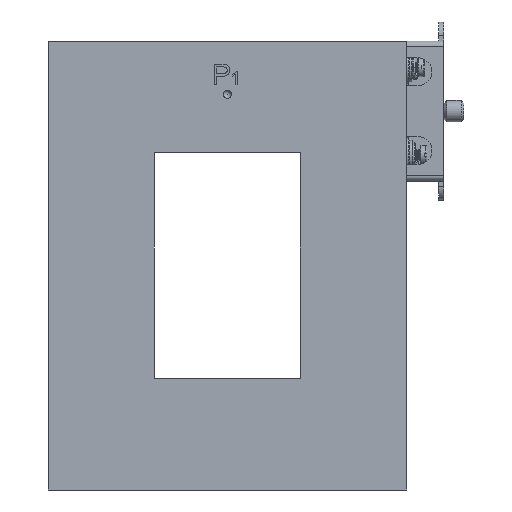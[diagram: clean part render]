
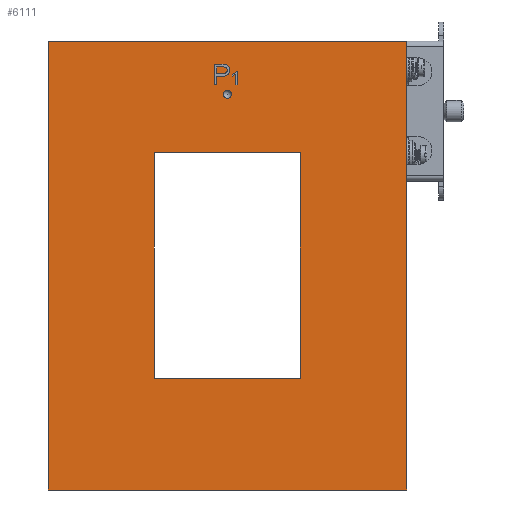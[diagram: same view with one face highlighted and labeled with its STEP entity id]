
A CAD part, left-side view. The second image highlights one B-rep face of the part: STEP entity #6111.
In plain terms, the highlighted planar face has unit normal (-1, 0, 0).
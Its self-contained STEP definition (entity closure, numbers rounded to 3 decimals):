
#91=FACE_BOUND('',#890,.T.);
#92=FACE_BOUND('',#891,.T.);
#211=PLANE('',#6783);
#541=FACE_OUTER_BOUND('',#889,.T.);
#889=EDGE_LOOP('',(#5255,#5256,#5257,#5258));
#890=EDGE_LOOP('',(#5259));
#891=EDGE_LOOP('',(#5260,#5261,#5262,#5263));
#1203=CIRCLE('',#6773,1.536);
#1721=LINE('',#21067,#2133);
#1724=LINE('',#21073,#2136);
#1727=LINE('',#21079,#2139);
#1730=LINE('',#21083,#2142);
#1733=LINE('',#21091,#2145);
#1737=LINE('',#21098,#2149);
#1740=LINE('',#21104,#2152);
#1742=LINE('',#21107,#2154);
#2133=VECTOR('',#8429,1.);
#2136=VECTOR('',#8434,1.);
#2139=VECTOR('',#8439,1.);
#2142=VECTOR('',#8444,1.);
#2145=VECTOR('',#8449,1.);
#2149=VECTOR('',#8455,1.);
#2152=VECTOR('',#8460,1.);
#2154=VECTOR('',#8464,1.);
#2698=VERTEX_POINT('',#21056);
#2702=VERTEX_POINT('',#21064);
#2703=VERTEX_POINT('',#21066);
#2705=VERTEX_POINT('',#21072);
#2707=VERTEX_POINT('',#21078);
#2710=VERTEX_POINT('',#21088);
#2711=VERTEX_POINT('',#21090);
#2713=VERTEX_POINT('',#21096);
#2715=VERTEX_POINT('',#21102);
#3542=EDGE_CURVE('',#2698,#2698,#1203,.T.);
#3546=EDGE_CURVE('',#2703,#2702,#1721,.T.);
#3549=EDGE_CURVE('',#2705,#2703,#1724,.T.);
#3552=EDGE_CURVE('',#2707,#2705,#1727,.T.);
#3555=EDGE_CURVE('',#2702,#2707,#1730,.T.);
#3558=EDGE_CURVE('',#2710,#2711,#1733,.T.);
#3562=EDGE_CURVE('',#2713,#2710,#1737,.T.);
#3565=EDGE_CURVE('',#2715,#2713,#1740,.T.);
#3567=EDGE_CURVE('',#2711,#2715,#1742,.T.);
#5255=ORIENTED_EDGE('',*,*,#3567,.F.);
#5256=ORIENTED_EDGE('',*,*,#3558,.F.);
#5257=ORIENTED_EDGE('',*,*,#3562,.F.);
#5258=ORIENTED_EDGE('',*,*,#3565,.F.);
#5259=ORIENTED_EDGE('',*,*,#3542,.T.);
#5260=ORIENTED_EDGE('',*,*,#3546,.T.);
#5261=ORIENTED_EDGE('',*,*,#3555,.T.);
#5262=ORIENTED_EDGE('',*,*,#3552,.T.);
#5263=ORIENTED_EDGE('',*,*,#3549,.T.);
#6111=ADVANCED_FACE('',(#541,#91,#92),#211,.F.);
#6773=AXIS2_PLACEMENT_3D('',#21057,#8421,#8422);
#6783=AXIS2_PLACEMENT_3D('',#21108,#8465,#8466);
#8421=DIRECTION('center_axis',(1.,0.,0.));
#8422=DIRECTION('ref_axis',(0.,0.,-1.));
#8429=DIRECTION('',(0.,0.,1.));
#8434=DIRECTION('',(0.,1.,0.));
#8439=DIRECTION('',(0.,0.,-1.));
#8444=DIRECTION('',(0.,-1.,0.));
#8449=DIRECTION('',(0.,0.,1.));
#8455=DIRECTION('',(0.,1.,0.));
#8460=DIRECTION('',(0.,0.,-1.));
#8464=DIRECTION('',(0.,-1.,0.));
#8465=DIRECTION('center_axis',(1.,0.,0.));
#8466=DIRECTION('ref_axis',(0.,0.,-1.));
#21056=CARTESIAN_POINT('',(1189.478,-1499.924,-974.199));
#21057=CARTESIAN_POINT('Origin',(1189.478,-1501.46,-974.199));
#21064=CARTESIAN_POINT('',(1189.478,-1473.96,-996.227));
#21066=CARTESIAN_POINT('',(1189.478,-1473.96,-1081.227));
#21067=CARTESIAN_POINT('',(1189.478,-1473.96,-1017.477));
#21072=CARTESIAN_POINT('',(1189.478,-1528.96,-1081.227));
#21073=CARTESIAN_POINT('',(1189.478,-1487.71,-1081.227));
#21078=CARTESIAN_POINT('',(1189.478,-1528.96,-996.227));
#21079=CARTESIAN_POINT('',(1189.478,-1528.96,-1059.977));
#21083=CARTESIAN_POINT('',(1189.478,-1515.21,-996.227));
#21088=CARTESIAN_POINT('',(1189.478,-1433.96,-1123.227));
#21090=CARTESIAN_POINT('',(1189.478,-1433.96,-954.227));
#21091=CARTESIAN_POINT('',(1189.478,-1433.96,-1123.227));
#21096=CARTESIAN_POINT('',(1189.478,-1568.96,-1123.227));
#21098=CARTESIAN_POINT('',(1189.478,-1568.96,-1123.227));
#21102=CARTESIAN_POINT('',(1189.478,-1568.96,-954.227));
#21104=CARTESIAN_POINT('',(1189.478,-1568.96,-954.227));
#21107=CARTESIAN_POINT('',(1189.478,-1433.96,-954.227));
#21108=CARTESIAN_POINT('Origin',(1189.478,-1501.46,-1038.727));
